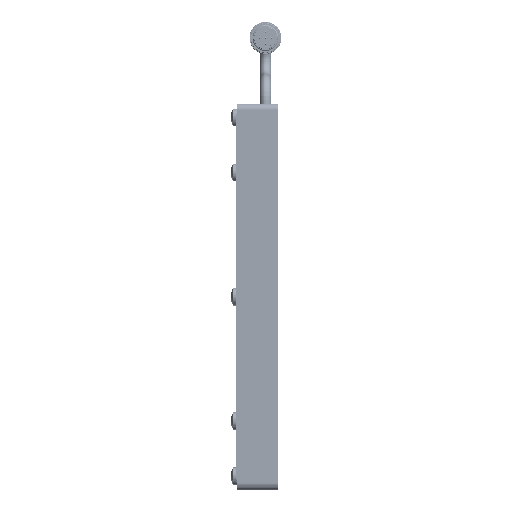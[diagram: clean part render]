
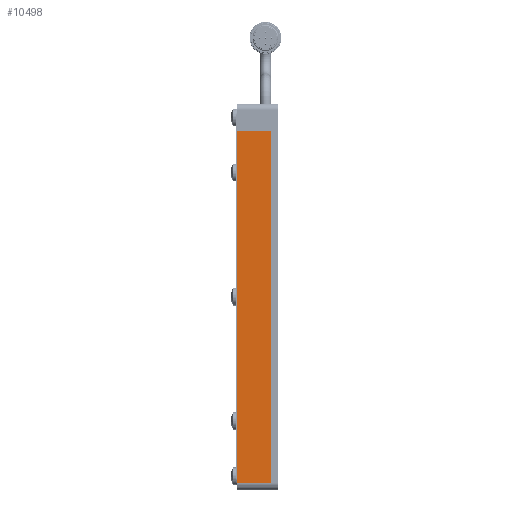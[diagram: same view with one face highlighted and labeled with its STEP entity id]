
A CAD part, left-side view. The second image highlights one B-rep face of the part: STEP entity #10498.
In plain terms, the highlighted planar face has unit normal (-1, 0, 0) as drawn and (0, 0, -1) by its records, which use the part's own axes.
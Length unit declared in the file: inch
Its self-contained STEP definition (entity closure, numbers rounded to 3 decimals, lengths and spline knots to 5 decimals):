
#529 = ORIENTED_EDGE ( 'NONE', *, *, #6223, .T. ) ;
#956 = LINE ( 'NONE', #7352, #9336 ) ;
#1239 = LINE ( 'NONE', #6281, #3290 ) ;
#1475 = AXIS2_PLACEMENT_3D ( 'NONE', #2233, #3797, #3477 ) ;
#2115 = DIRECTION ( 'NONE',  ( 0., -1., 0. ) ) ;
#2233 = CARTESIAN_POINT ( 'NONE',  ( -3.5, 0.3125, -0.25 ) ) ;
#2371 = ORIENTED_EDGE ( 'NONE', *, *, #2715, .T. ) ;
#2715 = EDGE_CURVE ( 'NONE', #8133, #7569, #1239, .T. ) ;
#2971 = DIRECTION ( 'NONE',  ( -1., 0., 0. ) ) ;
#3290 = VECTOR ( 'NONE', #9012, 39.37008 ) ;
#3477 = DIRECTION ( 'NONE',  ( 1., 0., 0. ) ) ;
#3797 = DIRECTION ( 'NONE',  ( 0., 0., 1. ) ) ;
#4248 = ORIENTED_EDGE ( 'NONE', *, *, #7659, .F. ) ;
#5295 = CARTESIAN_POINT ( 'NONE',  ( -3., -0.3125, -0.25 ) ) ;
#6223 = EDGE_CURVE ( 'NONE', #9537, #12458, #956, .T. ) ;
#6281 = CARTESIAN_POINT ( 'NONE',  ( -3., -0.3125, -0.25 ) ) ;
#6613 = CARTESIAN_POINT ( 'NONE',  ( -3., 0.3125, -0.25 ) ) ;
#7301 = CARTESIAN_POINT ( 'NONE',  ( 3.375, 0.3125, -0.25 ) ) ;
#7352 = CARTESIAN_POINT ( 'NONE',  ( 3.375, 0.3125, -0.25 ) ) ;
#7569 = VERTEX_POINT ( 'NONE', #6613 ) ;
#7659 = EDGE_CURVE ( 'NONE', #9537, #7569, #8138, .T. ) ;
#8133 = VERTEX_POINT ( 'NONE', #5295 ) ;
#8138 = LINE ( 'NONE', #13260, #15695 ) ;
#8306 = VECTOR ( 'NONE', #12687, 39.37008 ) ;
#9012 = DIRECTION ( 'NONE',  ( 0., 1., 0. ) ) ;
#9170 = EDGE_LOOP ( 'NONE', ( #4248, #529, #12610, #2371 ) ) ;
#9336 = VECTOR ( 'NONE', #2115, 39.37008 ) ;
#9537 = VERTEX_POINT ( 'NONE', #7301 ) ;
#9850 = CARTESIAN_POINT ( 'NONE',  ( -3.5, -0.3125, -0.25 ) ) ;
#10498 = ADVANCED_FACE ( 'NONE', ( #13751 ), #16288, .F. ) ;
#12458 = VERTEX_POINT ( 'NONE', #16083 ) ;
#12610 = ORIENTED_EDGE ( 'NONE', *, *, #15158, .T. ) ;
#12687 = DIRECTION ( 'NONE',  ( -1., 0., 0. ) ) ;
#13260 = CARTESIAN_POINT ( 'NONE',  ( -3.5, 0.3125, -0.25 ) ) ;
#13751 = FACE_OUTER_BOUND ( 'NONE', #9170, .T. ) ;
#15088 = LINE ( 'NONE', #9850, #8306 ) ;
#15158 = EDGE_CURVE ( 'NONE', #12458, #8133, #15088, .T. ) ;
#15695 = VECTOR ( 'NONE', #2971, 39.37008 ) ;
#16083 = CARTESIAN_POINT ( 'NONE',  ( 3.375, -0.3125, -0.25 ) ) ;
#16288 = PLANE ( 'NONE',  #1475 ) ;
